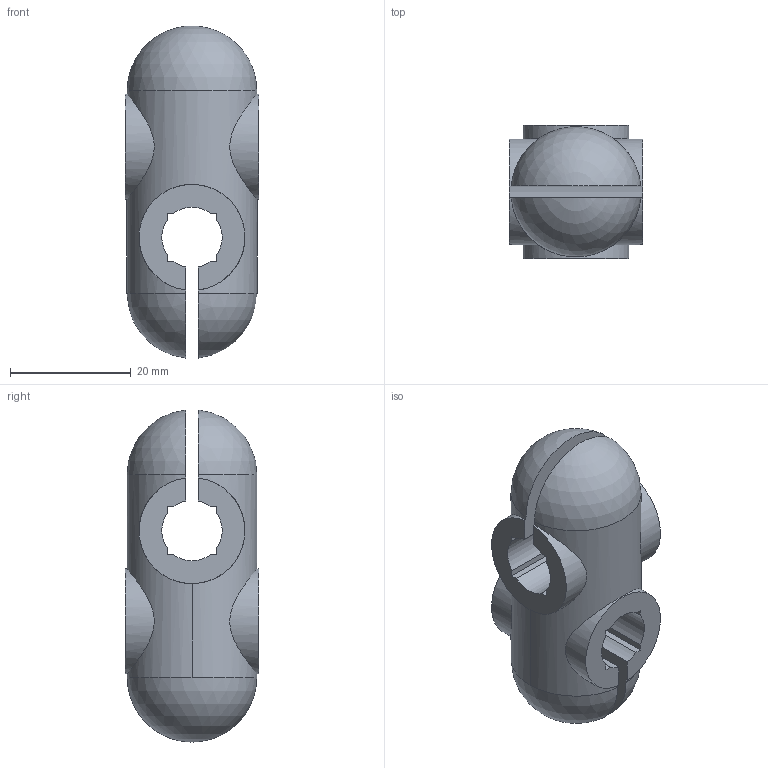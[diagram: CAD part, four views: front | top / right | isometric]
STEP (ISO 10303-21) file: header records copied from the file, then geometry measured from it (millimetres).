
FILE_DESCRIPTION((''),'2;1');
FILE_NAME('MOCR','2002-12-27T',('Lipro doo'),('Lipro d.o.o.'),'PRO/ENGINEER BY PARAMETRIC TECHNOLOGY CORPORATION, 2001150','PRO/ENGINEER BY PARAMETRIC TECHNOLOGY CORPORATION, 2001150','');
FILE_SCHEMA(('CONFIG_CONTROL_DESIGN'));
Length unit declared in the file: millimetre
Products named in the file (1): MOCR
Bounding box: 22 x 22 x 54.9 mm (x, y, z)
Volume: 13919.9 mm3; surface area: 6125.1 mm2
Topology: 1 solids, 1 shells, 44 faces, 126 edges, 84 vertices
Faces by surface type: plane 24, cylinder 16, sphere 4
Entity records: 1830 total; most frequent: CARTESIAN_POINT 626, ORIENTED_EDGE 252, DIRECTION 234, EDGE_CURVE 126, VECTOR 86, LINE 86, VERTEX_POINT 84, AXIS2_PLACEMENT_3D 74
